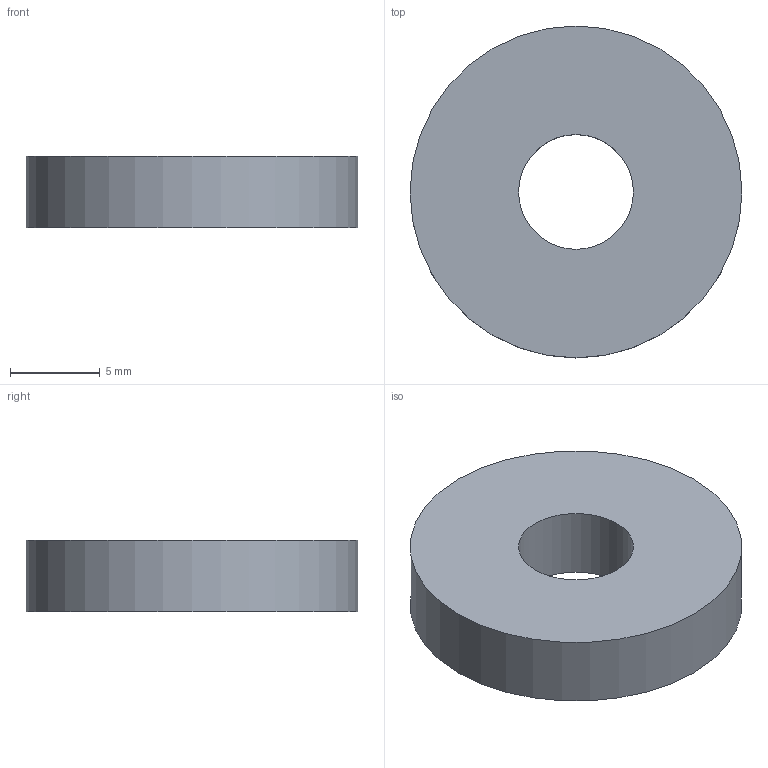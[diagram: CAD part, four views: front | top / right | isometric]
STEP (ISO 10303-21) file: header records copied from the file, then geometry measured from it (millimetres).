
FILE_DESCRIPTION(('Open CASCADE Model'),'2;1');
FILE_NAME('Open CASCADE Shape Model','2026-10-02T14:11:18',('Author'),( 'Open CASCADE'),'Open CASCADE STEP processor 8.0','build123d', 'Unknown');
FILE_SCHEMA(('AUTOMOTIVE_DESIGN { 1 0 10303 214 1 1 1 1 }'));
Length unit declared in the file: millimetre
Products named in the file (1): COMPOUND
Bounding box: 18.5 x 18.5 x 4 mm (x, y, z)
Volume: 946.5 mm3; surface area: 786.2 mm2
Topology: 1 solids, 1 shells, 4 faces, 6 edges, 4 vertices
Faces by surface type: cylinder 2, plane 2
Full cylindrical faces by diameter (mm): 6.4 x1, 18.5 x1
Entity records: 186 total; most frequent: DIRECTION 32, CARTESIAN_POINT 27, ORIENTED_EDGE 12, PCURVE 12, DEFINITIONAL_REPRESENTATION 12, LINE 10, VECTOR 10, AXIS2_PLACEMENT_3D 9
